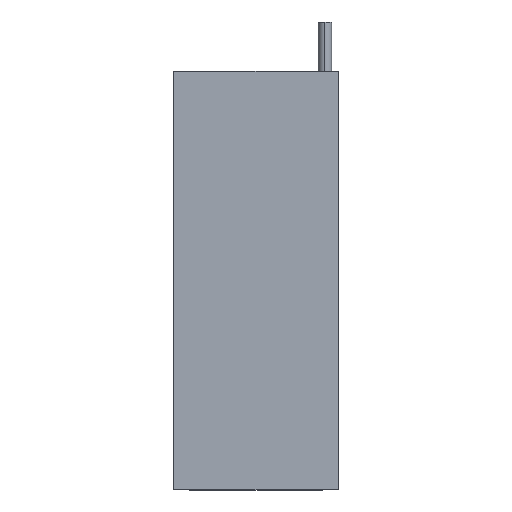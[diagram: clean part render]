
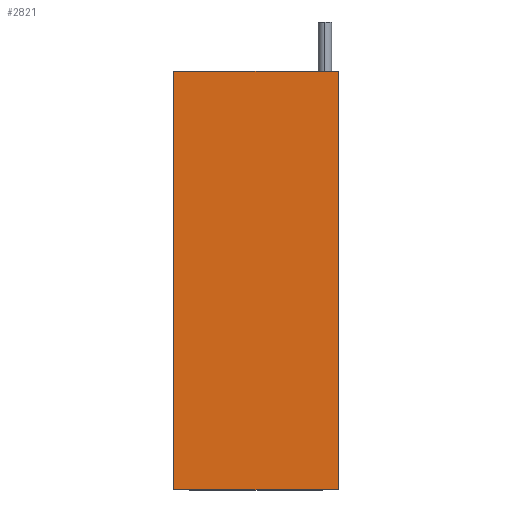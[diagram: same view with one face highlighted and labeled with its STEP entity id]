
A CAD part, top view. The second image highlights one B-rep face of the part: STEP entity #2821.
In plain terms, the highlighted planar face has unit normal (0, 0, 1).
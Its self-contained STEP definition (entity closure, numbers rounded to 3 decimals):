
#13 = LINE ( 'NONE', #2909, #3472 ) ;
#71 = PLANE ( 'NONE',  #1024 ) ;
#136 = FACE_OUTER_BOUND ( 'NONE', #439, .T. ) ;
#188 = LINE ( 'NONE', #1175, #838 ) ;
#314 = CARTESIAN_POINT ( 'NONE',  ( -50., -38., 10.6 ) ) ;
#358 = LINE ( 'NONE', #2487, #3745 ) ;
#439 = EDGE_LOOP ( 'NONE', ( #1721, #3228, #1491, #2953 ) ) ;
#711 = CARTESIAN_POINT ( 'NONE',  ( 50., 0., 10.6 ) ) ;
#800 = CARTESIAN_POINT ( 'NONE',  ( 50., 217., 10.6 ) ) ;
#838 = VECTOR ( 'NONE', #3451, 1000. ) ;
#1024 = AXIS2_PLACEMENT_3D ( 'NONE', #711, #1724, #2393 ) ;
#1175 = CARTESIAN_POINT ( 'NONE',  ( 50., -38., 10.6 ) ) ;
#1456 = CARTESIAN_POINT ( 'NONE',  ( 50., -38., 10.6 ) ) ;
#1491 = ORIENTED_EDGE ( 'NONE', *, *, #4138, .T. ) ;
#1721 = ORIENTED_EDGE ( 'NONE', *, *, #4064, .F. ) ;
#1724 = DIRECTION ( 'NONE',  ( 0., 0., -1. ) ) ;
#1772 = EDGE_CURVE ( 'NONE', #3002, #3573, #358, .T. ) ;
#1942 = VERTEX_POINT ( 'NONE', #314 ) ;
#2288 = DIRECTION ( 'NONE',  ( 0., 1., 0. ) ) ;
#2393 = DIRECTION ( 'NONE',  ( -1., 0., 0. ) ) ;
#2487 = CARTESIAN_POINT ( 'NONE',  ( -50., 217., 10.6 ) ) ;
#2586 = DIRECTION ( 'NONE',  ( 0., 1., 0. ) ) ;
#2625 = CARTESIAN_POINT ( 'NONE',  ( 50., 89.5, 10.6 ) ) ;
#2657 = EDGE_CURVE ( 'NONE', #4246, #1942, #188, .T. ) ;
#2821 = ADVANCED_FACE ( 'NONE', ( #136 ), #71, .F. ) ;
#2909 = CARTESIAN_POINT ( 'NONE',  ( -50., 89.5, 10.6 ) ) ;
#2953 = ORIENTED_EDGE ( 'NONE', *, *, #1772, .F. ) ;
#2977 = LINE ( 'NONE', #2625, #4037 ) ;
#3002 = VERTEX_POINT ( 'NONE', #3458 ) ;
#3228 = ORIENTED_EDGE ( 'NONE', *, *, #2657, .F. ) ;
#3451 = DIRECTION ( 'NONE',  ( -1., 0., 0. ) ) ;
#3458 = CARTESIAN_POINT ( 'NONE',  ( -50., 217., 10.6 ) ) ;
#3472 = VECTOR ( 'NONE', #2586, 1000. ) ;
#3573 = VERTEX_POINT ( 'NONE', #800 ) ;
#3745 = VECTOR ( 'NONE', #3782, 1000. ) ;
#3782 = DIRECTION ( 'NONE',  ( 1., 0., 0. ) ) ;
#4037 = VECTOR ( 'NONE', #2288, 1000. ) ;
#4064 = EDGE_CURVE ( 'NONE', #1942, #3002, #13, .T. ) ;
#4138 = EDGE_CURVE ( 'NONE', #4246, #3573, #2977, .T. ) ;
#4246 = VERTEX_POINT ( 'NONE', #1456 ) ;
